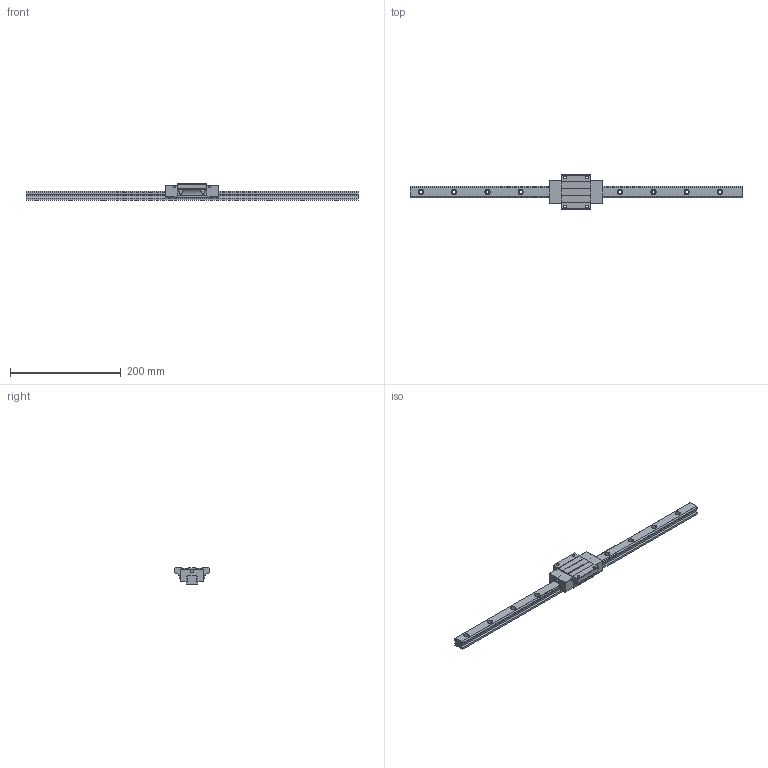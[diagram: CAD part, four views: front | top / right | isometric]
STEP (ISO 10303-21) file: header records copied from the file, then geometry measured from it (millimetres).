
FILE_DESCRIPTION (( 'STEP AP203' ), '1' );
FILE_NAME ('TRH20FN-WZ.STEP', '2024-05-08T07:38:22', ( '' ), ( '' ), 'SwSTEP 2.0', 'SolidWorks 2022', '' );
FILE_SCHEMA (( 'CONFIG_CONTROL_DESIGN' ));
Length unit declared in the file: millimetre
Products named in the file (1): TRH20FN-WZ
Bounding box: 600 x 63 x 30 mm (x, y, z)
Volume: 254549.5 mm3; surface area: 69597 mm2
Topology: 2 solids, 2 shells, 222 faces, 598 edges, 392 vertices
Faces by surface type: cylinder 126, plane 92, sphere 4
Entity records: 7729 total; most frequent: CARTESIAN_POINT 1871, DIRECTION 1242, ORIENTED_EDGE 1188, EDGE_CURVE 594, AXIS2_PLACEMENT_3D 451, VERTEX_POINT 392, VECTOR 340, LINE 340
